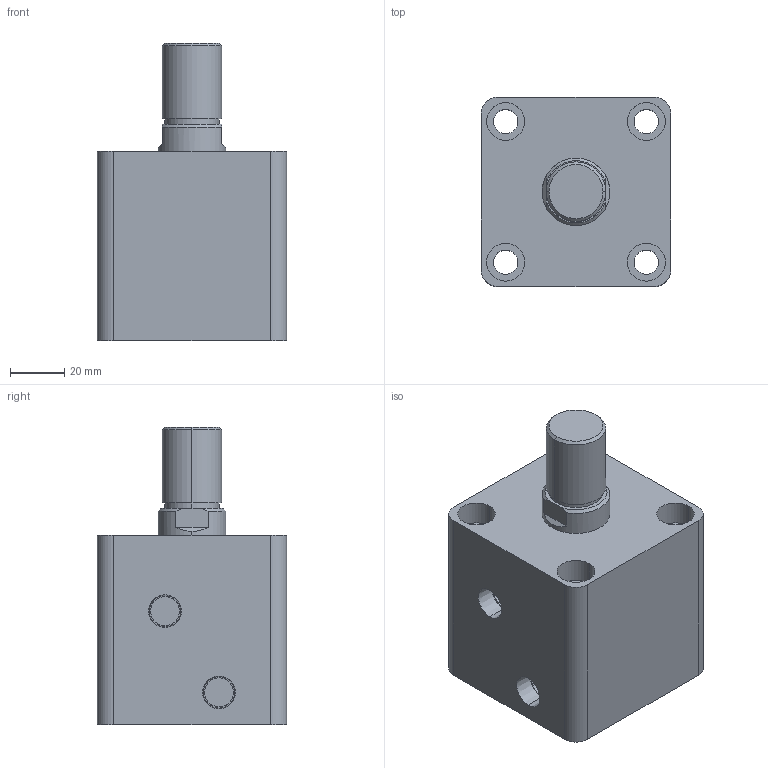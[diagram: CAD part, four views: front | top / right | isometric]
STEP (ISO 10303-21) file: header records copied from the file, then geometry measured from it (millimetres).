
FILE_DESCRIPTION (( 'STEP AP203' ), '1' );
FILE_NAME ('HTB-SD40-15W.STEP', '2019-10-07T06:47:43', ( '微软用户' ), ( '微软中国' ), 'SwSTEP 2.0', 'SolidWorks 2012', '' );
FILE_SCHEMA (( 'CONFIG_CONTROL_DESIGN' ));
Length unit declared in the file: millimetre
Products named in the file (3): HTB-SD40-15掛极; HTB-SD40-15W活塞杆; HTB-SD40-15W
Assembly tree (2 placements, depth 2):
  HTB-SD40-15W
    HTB-SD40-15掛极
    HTB-SD40-15W活塞杆
Bounding box: 70 x 70 x 110 mm (x, y, z)
Volume: 319016.8 mm3; surface area: 56532.9 mm2
Topology: 2 solids, 2 shells, 85 faces, 186 edges, 122 vertices
Faces by surface type: cylinder 44, plane 29, cone 8, torus 4
Entity records: 2709 total; most frequent: DIRECTION 466, CARTESIAN_POINT 426, ORIENTED_EDGE 372, AXIS2_PLACEMENT_3D 198, EDGE_CURVE 186, VERTEX_POINT 122, EDGE_LOOP 110, CIRCLE 108
